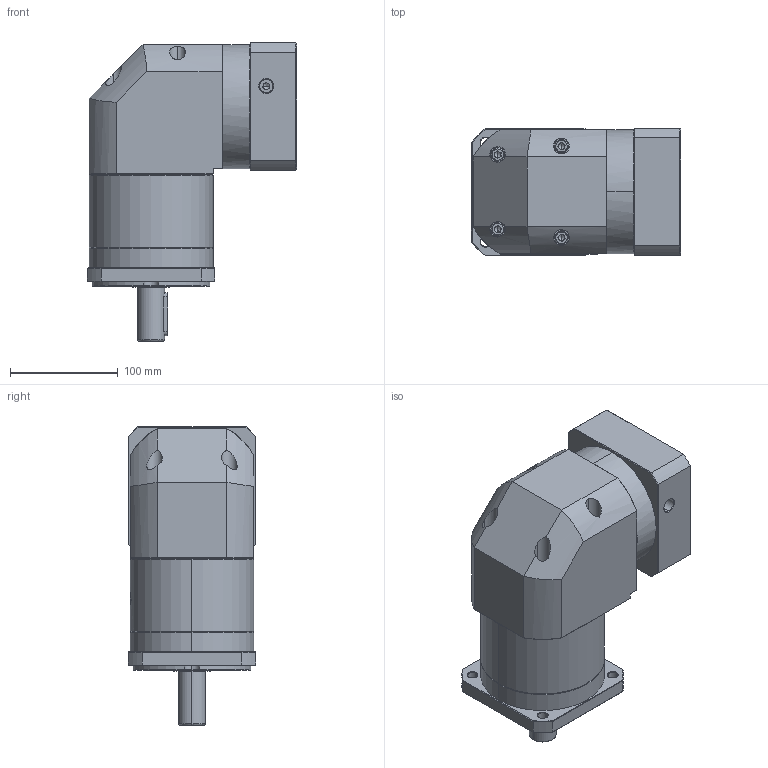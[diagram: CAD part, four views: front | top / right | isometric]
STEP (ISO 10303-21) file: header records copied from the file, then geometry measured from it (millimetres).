
FILE_DESCRIPTION (( 'STEP AP214' ), '1' );
FILE_NAME ('ZFR120A-D25-L2-P2-22-95-115-M8.step', '2023-08-27T08:03:31', ( '' ), ( '' ), 'SwSTEP 2.0', 'SolidWorks 2016', '' );
FILE_SCHEMA (( 'AUTOMOTIVE_DESIGN' ));
Length unit declared in the file: millimetre
Products named in the file (1): ZFR120A-D25-L2-P2-22-95-115-M8
Bounding box: 193.9 x 118 x 276.5 mm (x, y, z)
Volume: 3191676.6 mm3; surface area: 254269.6 mm2
Topology: 6 solids, 6 shells, 2266 faces, 5977 edges, 3816 vertices
Faces by surface type: plane 1061, cylinder 434, bspline 425, cone 338, torus 8
Entity records: 124160 total; most frequent: CARTESIAN_POINT 48746, ORIENTED_EDGE 11894, DIRECTION 8623, EDGE_CURVE 5947, VERTEX_POINT 3816, LINE 3159, VECTOR 3159, AXIS2_PLACEMENT_3D 2732
